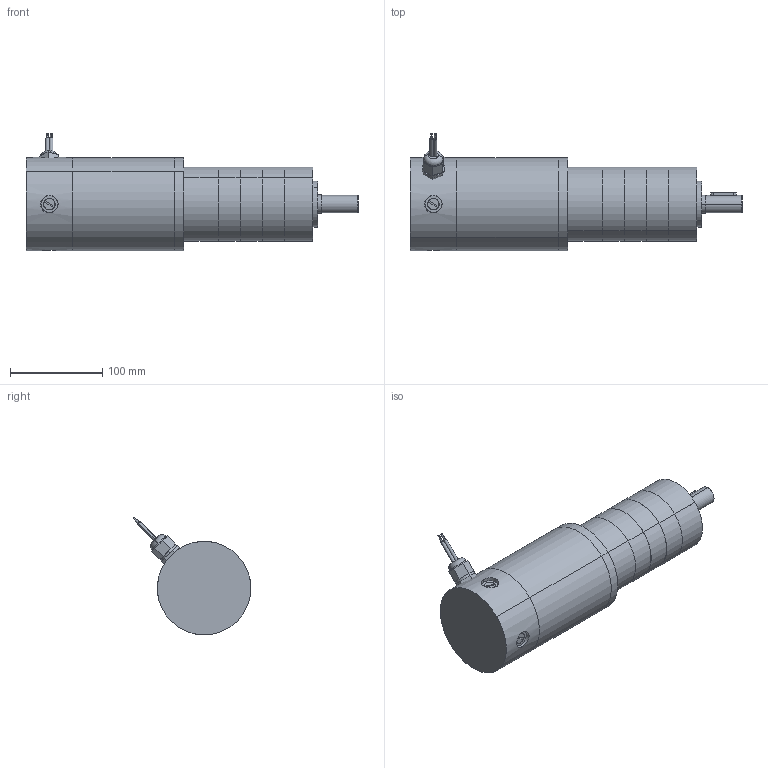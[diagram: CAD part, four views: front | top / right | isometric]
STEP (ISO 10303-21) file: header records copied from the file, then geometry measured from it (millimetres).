
FILE_DESCRIPTION (( 'STEP AP203' ), '1' );
FILE_NAME ('d40675bgp3.step', '2018-12-07T19:46:25', ( '' ), ( '' ), 'SwSTEP 2.0', 'SolidWorks 2017', '' );
FILE_SCHEMA (( 'CONFIG_CONTROL_DESIGN' ));
Length unit declared in the file: inch
Products named in the file (1): d40675bgp3
Bounding box: 360.8 x 128 x 128 mm (x, y, z)
Volume: 2149593.6 mm3; surface area: 225323.4 mm2
Topology: 21 solids, 21 shells, 478 faces, 1008 edges, 608 vertices
Faces by surface type: plane 212, cylinder 177, cone 69, torus 12, sphere 8
Entity records: 13192 total; most frequent: CARTESIAN_POINT 2657, DIRECTION 2387, ORIENTED_EDGE 1968, EDGE_CURVE 984, AXIS2_PLACEMENT_3D 954, VERTEX_POINT 608, EDGE_LOOP 554, LINE 479
